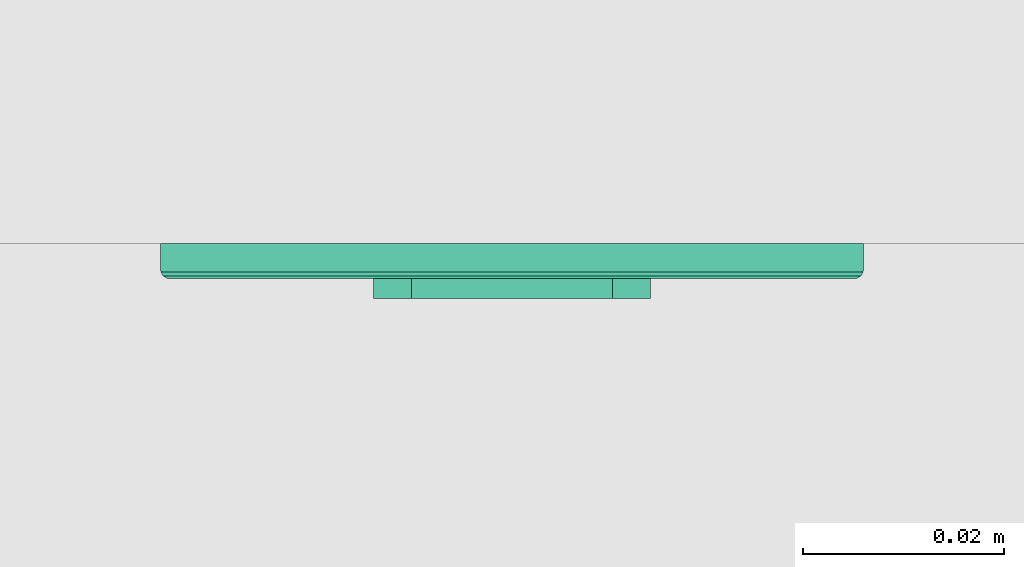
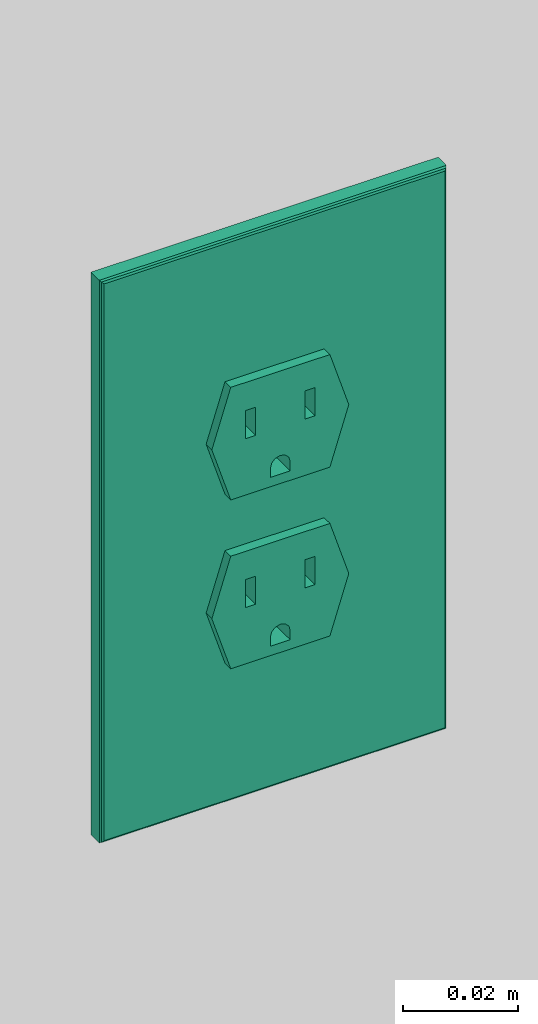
# One storey, part 16 of 103: 1 flow controller.
"""IFC2X3 building model written with IfcOpenShell, lengths in inches."""

from ifc_helpers import new_model, entity, si_unit, converted_unit, derived_unit, money_unit, direction, frame, origin_with_axes, place, context, subcontext, project, spatial, faceted_brep, source, transform, mapped, type_object, element, save


model = new_model("IFC2X3")

# Units and contexts
model_context = context("Model", 3, precision=0.00039370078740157, world=origin_with_axes(), true_north=direction((0.0, 1.0)))
plan_context = context("Plan", 3, precision=0.00039370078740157, world=origin_with_axes(), true_north=direction((0.0, 1.0)))
body_context = subcontext(model_context, "Body", "Model", "MODEL_VIEW")
ifc_project = project(units=[converted_unit("LENGTHUNIT", "INCH", entity("IfcPositiveLengthMeasure", 0.0254), si_unit("LENGTHUNIT", "METRE"), dimensions=[1, 0, 0, 0, 0, 0, 0]), converted_unit("AREAUNIT", "SQUARE_FOOT", entity("IfcPositiveLengthMeasure", 0.09290304), si_unit("AREAUNIT", "SQUARE_METRE"), dimensions=[2, 0, 0, 0, 0, 0, 0]), si_unit("PLANEANGLEUNIT", "RADIAN"), si_unit("SOLIDANGLEUNIT", "STERADIAN"), money_unit("USD"), converted_unit("TIMEUNIT", "Year", entity("IfcTimeMeasure", 31557600.0), si_unit("TIMEUNIT", "SECOND"), dimensions=[0, 0, 1, 0, 0, 0, 0]), si_unit("MASSUNIT", "GRAM", prefix="KILO"), si_unit("THERMODYNAMICTEMPERATUREUNIT", "DEGREE_CELSIUS"), si_unit("LUMINOUSINTENSITYUNIT", "LUMEN"), si_unit("ENERGYUNIT", "JOULE", prefix="MEGA"), derived_unit("SPECIFICHEATCAPACITYUNIT", [(si_unit("ENERGYUNIT", "JOULE"), 1), (si_unit("MASSUNIT", "GRAM", prefix="KILO"), -1), (si_unit("THERMODYNAMICTEMPERATUREUNIT", "KELVIN"), -1)])], contexts=[model_context, plan_context])

# Site, building, storey
site_placement = place(None, origin_with_axes())
site = spatial("IfcSite", under=ifc_project, at=site_placement, Name="Site", CompositionType="ELEMENT")
building_placement = place(site_placement, origin_with_axes())
building = spatial("IfcBuilding", under=site, at=building_placement, Name="Building", CompositionType="ELEMENT")
storey_placement = place(building_placement, frame((0.0, 0.0, 127.9999999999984), z_axis=(0.0, 0.0, 1.0), x_axis=(1.0, 0.0, 0.0)))
storey = spatial("IfcBuildingStorey", under=building, at=storey_placement, Name="Second Floor", CompositionType="ELEMENT", Elevation=128.0)

# Flow controller
switching_device_type = type_object("IfcSwitchingDeviceType", Name="Outlet 1 US", PredefinedType="NOTDEFINED")
shared_shape = source(origin_with_axes(), body_context, "Body", "Brep", [
    faceted_brep([(0.39370078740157, -0.03444881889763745, -1.18110236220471), (0.5436477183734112, -0.03444881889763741, -0.7086614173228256), (0.5436477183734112, -0.2165354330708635, -0.7086614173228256), (0.39370078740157, -0.2165354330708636, -1.18110236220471), (-0.3937007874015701, -0.03444881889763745, -1.181102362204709), (-0.543647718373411, -0.03444881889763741, -0.7086614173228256), (-0.39370078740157, -0.03444881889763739, -0.2362204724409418), (0.3937007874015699, -0.03444881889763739, -0.2362204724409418), (-0.196850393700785, -0.03444881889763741, -0.7086614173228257), (-0.196850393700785, -0.0344488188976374, -0.4724409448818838), (-0.275590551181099, -0.0344488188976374, -0.4724409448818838), (-0.275590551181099, -0.03444881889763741, -0.7086614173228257), (0.196850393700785, -0.03444881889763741, -0.7086614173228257), (0.275590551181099, -0.03444881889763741, -0.7086614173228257), (0.275590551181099, -0.0344488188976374, -0.4724409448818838), (0.196850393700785, -0.0344488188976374, -0.4724409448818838), (-0.078740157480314, -0.03444881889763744, -1.102362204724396), (0.078740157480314, -0.03444881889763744, -1.102362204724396), (0.078740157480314, -0.03444881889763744, -1.023622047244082), (0.06819097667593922, -0.03444881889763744, -0.9842519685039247), (0.03937007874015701, -0.03444881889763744, -0.9554310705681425), (0.0, -0.03444881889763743, -0.9448818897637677), (-0.03937007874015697, -0.03444881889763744, -0.9554310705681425), (-0.06819097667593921, -0.03444881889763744, -0.9842519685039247), (-0.078740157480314, -0.03444881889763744, -1.023622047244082), (0.3937007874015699, -0.2165354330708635, -0.2362204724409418), (-0.39370078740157, -0.2165354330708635, -0.2362204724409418), (-0.543647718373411, -0.2165354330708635, -0.7086614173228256), (-0.3937007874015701, -0.2165354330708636, -1.181102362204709), (-0.196850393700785, -0.2165354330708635, -0.7086614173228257), (-0.275590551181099, -0.2165354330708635, -0.7086614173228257), (-0.275590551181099, -0.2165354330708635, -0.4724409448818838), (-0.196850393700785, -0.2165354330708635, -0.4724409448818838), (0.196850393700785, -0.2165354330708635, -0.7086614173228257), (0.196850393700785, -0.2165354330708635, -0.4724409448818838), (0.275590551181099, -0.2165354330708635, -0.4724409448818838), (0.275590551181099, -0.2165354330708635, -0.7086614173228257), (-0.078740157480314, -0.2165354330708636, -1.102362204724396), (-0.078740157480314, -0.2165354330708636, -1.023622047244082), (-0.06819097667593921, -0.2165354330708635, -0.9842519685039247), (-0.03937007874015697, -0.2165354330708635, -0.9554310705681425), (0.0, -0.2165354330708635, -0.9448818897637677), (0.03937007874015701, -0.2165354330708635, -0.9554310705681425), (0.06819097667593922, -0.2165354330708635, -0.9842519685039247), (0.078740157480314, -0.2165354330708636, -1.023622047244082), (0.078740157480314, -0.2165354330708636, -1.102362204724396)], [[[0, 1, 2, 3]], [[0, 4, 5, 6, 7, 1], [8, 9, 10, 11], [12, 13, 14, 15], [16, 17, 18, 19, 20, 21, 22, 23, 24]], [[1, 7, 25, 2]], [[3, 2, 25, 26, 27, 28], [29, 30, 31, 32], [33, 34, 35, 36], [37, 38, 39, 40, 41, 42, 43, 44, 45]], [[4, 0, 3, 28]], [[5, 4, 28, 27]], [[6, 5, 27, 26]], [[7, 6, 26, 25]], [[9, 8, 29, 32]], [[10, 9, 32, 31]], [[11, 10, 31, 30]], [[8, 11, 30, 29]], [[13, 12, 33, 36]], [[14, 13, 36, 35]], [[15, 14, 35, 34]], [[12, 15, 34, 33]], [[17, 16, 37, 45]], [[18, 17, 45, 44]], [[19, 18, 44, 43]], [[20, 19, 43, 42]], [[21, 20, 42, 41]], [[22, 21, 41, 40]], [[23, 22, 40, 39]], [[24, 23, 39, 38]], [[16, 24, 38, 37]]]),
    faceted_brep([(0.39370078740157, -0.03444881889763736, 0.2362204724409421), (0.5436477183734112, -0.03444881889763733, 0.7086614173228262), (0.5436477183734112, -0.2165354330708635, 0.7086614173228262), (0.39370078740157, -0.2165354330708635, 0.2362204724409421), (-0.3937007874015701, -0.03444881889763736, 0.2362204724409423), (-0.543647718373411, -0.03444881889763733, 0.7086614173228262), (-0.39370078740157, -0.0344488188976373, 1.18110236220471), (0.3937007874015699, -0.0344488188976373, 1.18110236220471), (-0.196850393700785, -0.03444881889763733, 0.7086614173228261), (-0.196850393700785, -0.03444881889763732, 0.944881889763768), (-0.275590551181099, -0.03444881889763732, 0.944881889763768), (-0.275590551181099, -0.03444881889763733, 0.7086614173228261), (0.196850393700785, -0.03444881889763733, 0.7086614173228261), (0.275590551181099, -0.03444881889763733, 0.7086614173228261), (0.275590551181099, -0.03444881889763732, 0.944881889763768), (0.196850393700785, -0.03444881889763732, 0.944881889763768), (-0.078740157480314, -0.03444881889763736, 0.3149606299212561), (0.078740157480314, -0.03444881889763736, 0.3149606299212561), (0.078740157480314, -0.03444881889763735, 0.3937007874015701), (0.06819097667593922, -0.03444881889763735, 0.4330708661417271), (0.03937007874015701, -0.03444881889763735, 0.4618917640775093), (0.0, -0.03444881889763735, 0.472440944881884), (-0.03937007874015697, -0.03444881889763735, 0.4618917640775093), (-0.06819097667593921, -0.03444881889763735, 0.4330708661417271), (-0.078740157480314, -0.03444881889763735, 0.3937007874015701), (0.3937007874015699, -0.2165354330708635, 1.18110236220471), (-0.39370078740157, -0.2165354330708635, 1.18110236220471), (-0.543647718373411, -0.2165354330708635, 0.7086614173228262), (-0.3937007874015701, -0.2165354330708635, 0.2362204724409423), (-0.196850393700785, -0.2165354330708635, 0.7086614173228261), (-0.275590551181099, -0.2165354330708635, 0.7086614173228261), (-0.275590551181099, -0.2165354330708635, 0.944881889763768), (-0.196850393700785, -0.2165354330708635, 0.944881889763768), (0.196850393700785, -0.2165354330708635, 0.7086614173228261), (0.196850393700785, -0.2165354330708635, 0.944881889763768), (0.275590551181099, -0.2165354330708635, 0.944881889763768), (0.275590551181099, -0.2165354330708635, 0.7086614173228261), (-0.078740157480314, -0.2165354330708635, 0.3149606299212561), (-0.078740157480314, -0.2165354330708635, 0.3937007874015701), (-0.06819097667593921, -0.2165354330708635, 0.4330708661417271), (-0.03937007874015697, -0.2165354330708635, 0.4618917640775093), (0.0, -0.2165354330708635, 0.472440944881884), (0.03937007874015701, -0.2165354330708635, 0.4618917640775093), (0.06819097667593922, -0.2165354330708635, 0.4330708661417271), (0.078740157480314, -0.2165354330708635, 0.3937007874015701), (0.078740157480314, -0.2165354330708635, 0.3149606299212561)], [[[0, 1, 2, 3]], [[0, 4, 5, 6, 7, 1], [8, 9, 10, 11], [12, 13, 14, 15], [16, 17, 18, 19, 20, 21, 22, 23, 24]], [[1, 7, 25, 2]], [[3, 2, 25, 26, 27, 28], [29, 30, 31, 32], [33, 34, 35, 36], [37, 38, 39, 40, 41, 42, 43, 44, 45]], [[4, 0, 3, 28]], [[5, 4, 28, 27]], [[6, 5, 27, 26]], [[7, 6, 26, 25]], [[9, 8, 29, 32]], [[10, 9, 32, 31]], [[11, 10, 31, 30]], [[8, 11, 30, 29]], [[13, 12, 33, 36]], [[14, 13, 36, 35]], [[15, 14, 35, 34]], [[12, 15, 34, 33]], [[17, 16, 37, 45]], [[18, 17, 45, 44]], [[19, 18, 44, 43]], [[20, 19, 43, 42]], [[21, 20, 42, 41]], [[22, 21, 41, 40]], [[23, 22, 40, 39]], [[24, 23, 39, 38]], [[16, 24, 38, 37]]]),
    faceted_brep([(-1.343503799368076, -0.1377952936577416, -2.327755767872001), (1.343503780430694, -0.1377952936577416, -2.327755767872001), (1.343503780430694, -0.1377952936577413, 2.327755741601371), (-1.343503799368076, -0.1377952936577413, 2.327755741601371), (0.39370078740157, -0.1377952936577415, -1.18110236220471), (-0.3937007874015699, -0.1377952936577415, -1.181102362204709), (-0.5436477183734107, -0.1377952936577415, -0.7086614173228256), (-0.39370078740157, -0.1377952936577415, -0.2362204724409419), (0.3937007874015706, -0.1377952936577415, -0.2362204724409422), (0.5436477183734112, -0.1377952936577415, -0.7086614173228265), (-0.39370078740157, -0.1377952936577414, 1.18110236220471), (0.3937007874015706, -0.1377952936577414, 1.18110236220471), (0.5436477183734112, -0.1377952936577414, 0.7086614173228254), (0.39370078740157, -0.1377952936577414, 0.236220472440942), (-0.3937007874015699, -0.1377952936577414, 0.2362204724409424), (-0.5436477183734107, -0.1377952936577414, 0.7086614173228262), (-1.352419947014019, -0.1366214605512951, -2.336671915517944), (1.352419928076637, -0.1366214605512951, -2.336671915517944), (1.352419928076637, -0.1366214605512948, 2.336671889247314), (-1.352419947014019, -0.1366214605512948, 2.336671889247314), (0.39370078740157, -0.03444881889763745, -1.18110236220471), (-0.3937007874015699, -0.03444881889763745, -1.181102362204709), (-0.5436477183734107, -0.03444881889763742, -0.7086614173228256), (-0.39370078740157, -0.03444881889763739, -0.2362204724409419), (0.3937007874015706, -0.03444881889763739, -0.2362204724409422), (0.5436477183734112, -0.03444881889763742, -0.7086614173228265), (-0.39370078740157, -0.0344488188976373, 1.18110236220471), (0.3937007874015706, -0.0344488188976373, 1.18110236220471), (0.5436477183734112, -0.03444881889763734, 0.7086614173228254), (0.39370078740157, -0.03444881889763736, 0.236220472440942), (-0.3937007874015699, -0.03444881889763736, 0.2362204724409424), (-0.5436477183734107, -0.03444881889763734, 0.7086614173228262), (-1.36786294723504, -0.1277054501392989, -2.352114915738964), (1.367862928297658, -0.1277054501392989, -2.352114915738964), (1.367862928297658, -0.1277054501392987, 2.352114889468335), (-1.36786294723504, -0.1277054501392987, 2.352114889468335), (-1.376778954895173, -0.1122624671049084, -2.361030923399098), (1.376778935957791, -0.1122624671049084, -2.361030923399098), (1.376778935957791, -0.1122624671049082, 2.361030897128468), (-1.376778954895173, -0.1122624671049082, 2.361030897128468), (-1.377952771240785, -0.1033464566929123, -2.362204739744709), (1.377952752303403, -0.1033464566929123, -2.362204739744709), (1.377952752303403, -0.103346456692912, 2.36220471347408), (-1.377952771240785, -0.103346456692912, 2.36220471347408), (-1.377952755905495, 0.0, -2.36220472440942), (1.377952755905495, 0.0, -2.36220472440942), (1.377952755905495, 0.0, 2.36220472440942), (-1.377952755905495, 0.0, 2.36220472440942)], [[[0, 1, 2, 3], [4, 5, 6, 7, 8, 9], [10, 11, 12, 13, 14, 15]], [[1, 0, 16, 17]], [[2, 1, 17, 18]], [[3, 2, 18, 19]], [[0, 3, 19, 16]], [[4, 20, 21, 5]], [[5, 21, 22, 6]], [[6, 22, 23, 7]], [[7, 23, 24, 8]], [[8, 24, 25, 9]], [[9, 25, 20, 4]], [[11, 10, 26, 27]], [[12, 11, 27, 28]], [[13, 12, 28, 29]], [[14, 13, 29, 30]], [[15, 14, 30, 31]], [[10, 15, 31, 26]], [[17, 16, 32, 33]], [[18, 17, 33, 34]], [[19, 18, 34, 35]], [[16, 19, 35, 32]], [[22, 21, 20, 25, 24, 23]], [[28, 27, 26, 31, 30, 29]], [[33, 32, 36, 37]], [[34, 33, 37, 38]], [[35, 34, 38, 39]], [[32, 35, 39, 36]], [[37, 36, 40, 41]], [[38, 37, 41, 42]], [[39, 38, 42, 43]], [[36, 39, 43, 40]], [[41, 40, 44, 45]], [[42, 41, 45, 46]], [[43, 42, 46, 47]], [[40, 43, 47, 44]], [[46, 45, 44, 47]]]),
])
flow_controller_placement = place(storey_placement, frame((230.9999999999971, 188.4999999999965, 12.99803149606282), z_axis=(0.0, 0.0, 1.0), x_axis=(1.0, 0.0, 0.0)))
element("IfcFlowController", 1, at=flow_controller_placement, inside=storey, type_object=switching_device_type, Name="FU - 029", context=body_context, shape_type="MappedRepresentation", body=[
    mapped(shared_shape, transform((0.0, 0.0, 0.0))),
])

save(model, "model.ifc")
